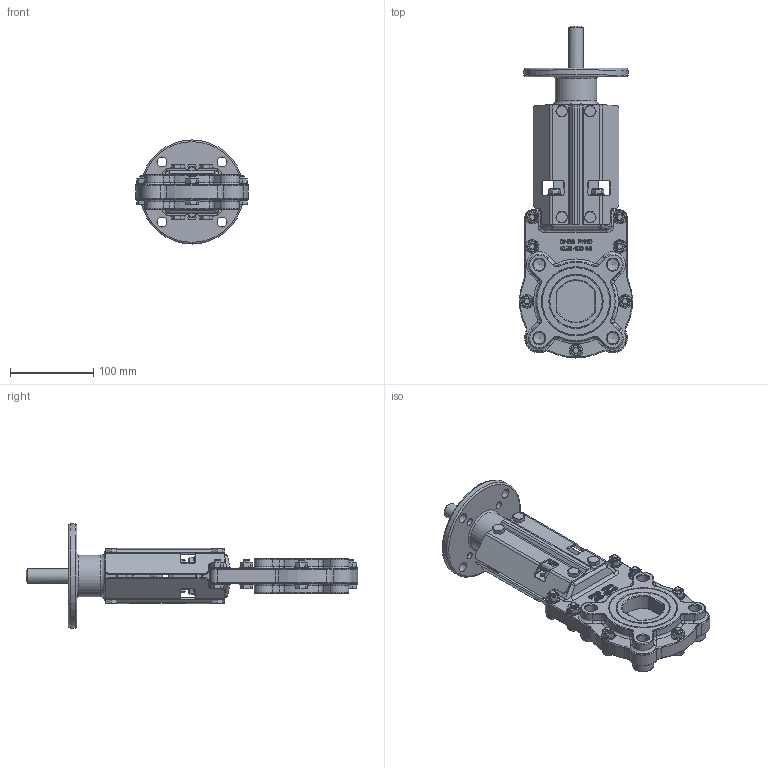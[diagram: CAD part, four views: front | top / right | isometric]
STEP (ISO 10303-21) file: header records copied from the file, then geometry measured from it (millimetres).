
FILE_DESCRIPTION(/* description */ (''),/* implementation_level */ '2;1');
FILE_NAME(/* name */ 'Rising stem knife gate valve with top flange DN50-10.stp',/* time_stamp */ '2025-04-21T17:03:49+08:00',/* author */ (''),/* organization */ (''),/* preprocessor_version */ 'ST-DEVELOPER v15',/* originating_system */ 'SIEMENS PLM Software NX 10.0',/* authorisation */ '');
FILE_SCHEMA (('AP203_CONFIGURATION_CONTROLLED_3D_DESIGN_OF_MECHANICAL_PARTS_AND_ASSEMBLIES_MIM_LF { 1 0 10303 403 2 1 2}'));
Products named in the file (1): Admi256412D81nqu
Bounding box: 135.73 x 398.96 x 125 mm (x, y, z)
Volume: 926354.2 mm3; surface area: 235978.2 mm2
Topology: 1 solids, 19 shells, 1968 faces, 4886 edges, 3019 vertices
Faces by surface type: plane 770, cylinder 502, cone 186, bspline 180, torus 148, extrusion 138, sphere 44
Full cylindrical faces by diameter (mm): 1.7 x4, 5.2 x1, 6.5 x2, 7.323 x11, 8 x18, 8.4 x18, 9 x8, 11.4 x15, 12 x4, 13.8 x2, 13.835 x8, 14.5 x1, 16 x24, 18 x1, 25 x1, 40 x1, 50 x1, 125 x1
Entity records: 61109 total; most frequent: CARTESIAN_POINT 17756, ORIENTED_EDGE 9026, DIRECTION 8060, EDGE_CURVE 4513, AXIS2_PLACEMENT_3D 2996, VERTEX_POINT 2933, EDGE_LOOP 2386, VECTOR 2068
